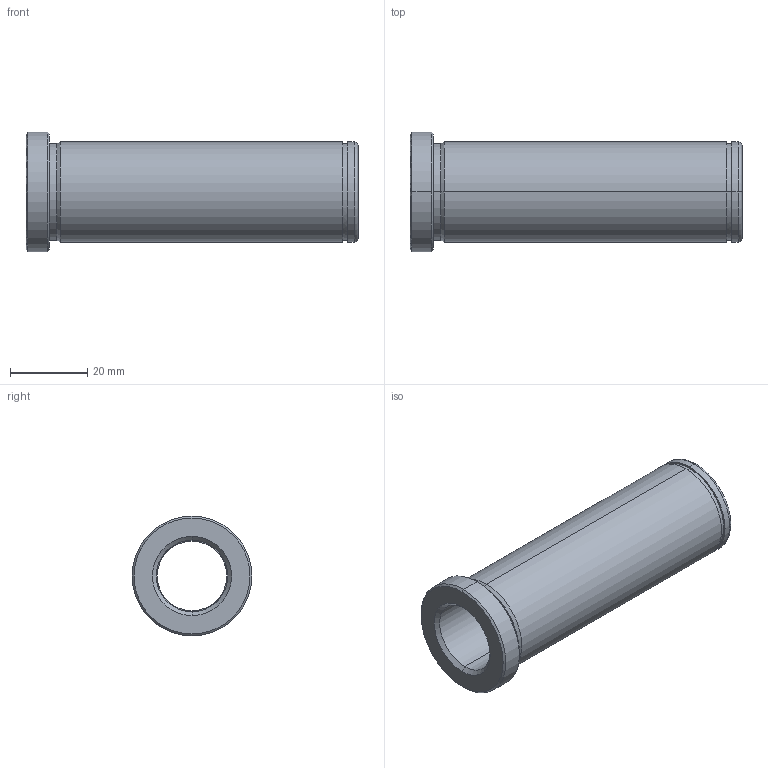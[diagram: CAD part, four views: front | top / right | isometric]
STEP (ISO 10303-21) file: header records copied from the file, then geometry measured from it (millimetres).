
FILE_DESCRIPTION(('CATIA V5 STEP Exchange'),'2;1');
FILE_NAME('C:\Users\Utente\Desktop\IO LAVORO\3D X SITO CF\X SITO\PLASTICA\553\553-18X86.stp','2021-05-23T17:26:31+00:00',('none'),('none'),'CATIA Version 5 Release 20 GA (IN-10)','CATIA V5 STEP AP203','none');
FILE_SCHEMA(('CONFIG_CONTROL_DESIGN'));
Length unit declared in the file: millimetre
Products named in the file (1): 553-18X86
Bounding box: 86 x 31 x 31 mm (x, y, z)
Volume: 24439.2 mm3; surface area: 12987.6 mm2
Topology: 1 solids, 1 shells, 32 faces, 102 edges, 76 vertices
Faces by surface type: cylinder 14, cone 8, plane 6, torus 4
Entity records: 1334 total; most frequent: CARTESIAN_POINT 389, ORIENTED_EDGE 204, DIRECTION 152, EDGE_CURVE 102, AXIS2_PLACEMENT_3D 99, VERTEX_POINT 76, CIRCLE 66, EDGE_LOOP 38
